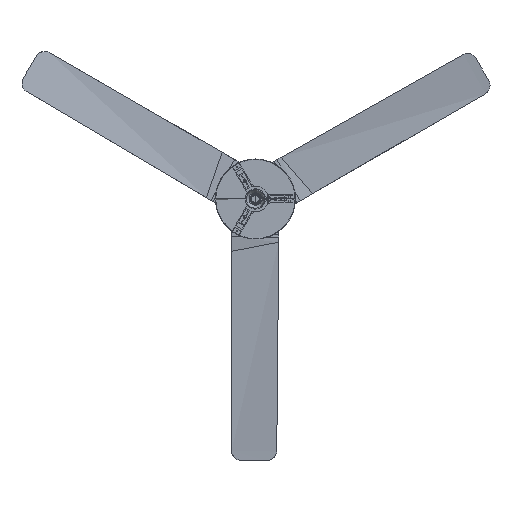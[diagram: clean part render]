
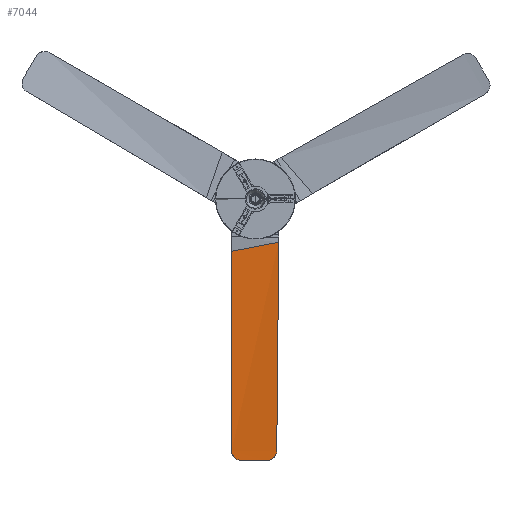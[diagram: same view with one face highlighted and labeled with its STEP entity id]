
A CAD part, top view. The second image highlights one B-rep face of the part: STEP entity #7044.
In plain terms, the highlighted free-form (B-spline) face has degree [3, 1] with [6, 2] control points.
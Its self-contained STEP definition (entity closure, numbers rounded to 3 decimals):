
#7044=ADVANCED_FACE('',(#8184),#25246,.T.);
#8184=FACE_OUTER_BOUND('',#9339,.T.);
#9339=EDGE_LOOP('',(#12304,#12305,#12306,#12307,#12308,#12309));
#12304=ORIENTED_EDGE('',*,*,#17315,.F.);
#12305=ORIENTED_EDGE('',*,*,#17299,.F.);
#12306=ORIENTED_EDGE('',*,*,#17316,.F.);
#12307=ORIENTED_EDGE('',*,*,#17314,.T.);
#12308=ORIENTED_EDGE('',*,*,#17317,.F.);
#12309=ORIENTED_EDGE('',*,*,#17310,.F.);
#17299=EDGE_CURVE('',#23975,#23930,#19780,.T.);
#17310=EDGE_CURVE('',#23931,#23976,#19791,.T.);
#17314=EDGE_CURVE('',#23978,#23977,#19795,.T.);
#17315=EDGE_CURVE('',#23930,#23931,#19796,.T.);
#17316=EDGE_CURVE('',#23978,#23975,#19797,.T.);
#17317=EDGE_CURVE('',#23976,#23977,#19798,.T.);
#19780=B_SPLINE_CURVE_WITH_KNOTS('',3,(#37489,#37490,#37491,#37492,#37493,
#37494,#37495,#37496,#37497,#37498,#37499,#37500,#37501,#37502,#37503,#37504,
#37505,#37506,#37507),.UNSPECIFIED.,.F.,.F.,(4,3,3,3,3,3,4),(0.,74.188,
162.294,248.417,344.474,423.855,496.831),
 .UNSPECIFIED.);
#19791=B_SPLINE_CURVE_WITH_KNOTS('',3,(#37572,#37573,#37574,#37575,#37576,
#37577),.UNSPECIFIED.,.F.,.F.,(4,2,4),(0.,260.467,520.938),
 .UNSPECIFIED.);
#19795=B_SPLINE_CURVE_WITH_KNOTS('',3,(#37588,#37589,#37590,#37591,#37592,
#37593),.UNSPECIFIED.,.F.,.F.,(4,2,4),(-63.426,-31.713,
0.),.UNSPECIFIED.);
#19796=B_SPLINE_CURVE_WITH_KNOTS('',1,(#37594,#37595),.UNSPECIFIED.,.F.,
 .F.,(2,2),(-119.505,0.),.UNSPECIFIED.);
#19797=B_SPLINE_CURVE_WITH_KNOTS('',3,(#37596,#37597,#37598,#37599,#37600,
#37601,#37602,#37603,#37604,#37605),.UNSPECIFIED.,.F.,.F.,(4,2,2,2,4),(-38.429,
-28.878,-19.216,-9.898,0.),.UNSPECIFIED.);
#19798=B_SPLINE_CURVE_WITH_KNOTS('',3,(#37606,#37607,#37608,#37609,#37610,
#37611,#37612,#37613,#37614,#37615),.UNSPECIFIED.,.F.,.F.,(4,2,2,2,4),(-36.898,
-27.437,-18.45,-9.02,0.),.UNSPECIFIED.);
#23930=VERTEX_POINT('',#37176);
#23931=VERTEX_POINT('',#37177);
#23975=VERTEX_POINT('',#37221);
#23976=VERTEX_POINT('',#37222);
#23977=VERTEX_POINT('',#37223);
#23978=VERTEX_POINT('',#37224);
#25246=B_SPLINE_SURFACE_WITH_KNOTS('',3,1,((#37150,#37151),(#37152,#37153),
(#37154,#37155),(#37156,#37157),(#37158,#37159),(#37160,#37161)),
 .UNSPECIFIED.,.F.,.F.,.F.,(4,1,1,4),(2,2),(0.,184.784,
369.567,542.804),(0.,119.831),.UNSPECIFIED.);
#37150=CARTESIAN_POINT('',(9447.256,-4483.504,59.68));
#37151=CARTESIAN_POINT('',(9564.8,-4460.824,65.026));
#37152=CARTESIAN_POINT('',(9447.256,-4542.486,54.949));
#37153=CARTESIAN_POINT('',(9564.8,-4522.401,64.157));
#37154=CARTESIAN_POINT('',(9447.256,-4660.666,47.936));
#37155=CARTESIAN_POINT('',(9564.8,-4645.578,63.211));
#37156=CARTESIAN_POINT('',(9447.256,-4834.551,44.853));
#37157=CARTESIAN_POINT('',(9564.8,-4826.519,64.147));
#37158=CARTESIAN_POINT('',(9447.256,-4949.231,47.435));
#37159=CARTESIAN_POINT('',(9564.8,-4945.849,66.25));
#37160=CARTESIAN_POINT('',(9447.256,-5004.675,49.763));
#37161=CARTESIAN_POINT('',(9564.8,-5003.581,67.616));
#37176=CARTESIAN_POINT('',(9447.576,-4483.442,59.695));
#37177=CARTESIAN_POINT('',(9564.8,-4460.824,65.026));
#37221=CARTESIAN_POINT('',(9447.523,-4979.864,48.835));
#37222=CARTESIAN_POINT('',(9559.861,-4981.702,66.349));
#37223=CARTESIAN_POINT('',(9535.024,-5003.849,63.094));
#37224=CARTESIAN_POINT('',(9472.323,-5003.58,53.538));
#37489=CARTESIAN_POINT('',(9447.523,-4979.864,48.835));
#37490=CARTESIAN_POINT('',(9447.467,-4955.143,47.932));
#37491=CARTESIAN_POINT('',(9447.42,-4930.425,47.245));
#37492=CARTESIAN_POINT('',(9447.382,-4905.707,46.774));
#37493=CARTESIAN_POINT('',(9447.337,-4876.342,46.214));
#37494=CARTESIAN_POINT('',(9447.304,-4846.977,45.959));
#37495=CARTESIAN_POINT('',(9447.283,-4817.607,46.008));
#37496=CARTESIAN_POINT('',(9447.262,-4788.909,46.056));
#37497=CARTESIAN_POINT('',(9447.254,-4760.206,46.395));
#37498=CARTESIAN_POINT('',(9447.257,-4731.493,47.025));
#37499=CARTESIAN_POINT('',(9447.26,-4699.468,47.728));
#37500=CARTESIAN_POINT('',(9447.278,-4667.47,48.793));
#37501=CARTESIAN_POINT('',(9447.311,-4635.493,50.217));
#37502=CARTESIAN_POINT('',(9447.338,-4609.058,51.394));
#37503=CARTESIAN_POINT('',(9447.375,-4582.638,52.816));
#37504=CARTESIAN_POINT('',(9447.422,-4556.229,54.483));
#37505=CARTESIAN_POINT('',(9447.465,-4531.958,56.014));
#37506=CARTESIAN_POINT('',(9447.516,-4507.697,57.752));
#37507=CARTESIAN_POINT('',(9447.576,-4483.442,59.695));
#37572=CARTESIAN_POINT('',(9564.8,-4460.824,65.026));
#37573=CARTESIAN_POINT('',(9563.977,-4547.627,63.766));
#37574=CARTESIAN_POINT('',(9563.153,-4634.452,63.174));
#37575=CARTESIAN_POINT('',(9561.507,-4808.089,63.543));
#37576=CARTESIAN_POINT('',(9560.684,-4894.905,64.504));
#37577=CARTESIAN_POINT('',(9559.861,-4981.702,66.349));
#37588=CARTESIAN_POINT('',(9472.323,-5003.58,53.538));
#37589=CARTESIAN_POINT('',(9482.773,-5003.625,55.132));
#37590=CARTESIAN_POINT('',(9493.223,-5003.67,56.725));
#37591=CARTESIAN_POINT('',(9514.123,-5003.759,59.91));
#37592=CARTESIAN_POINT('',(9524.574,-5003.804,61.502));
#37593=CARTESIAN_POINT('',(9535.024,-5003.849,63.094));
#37594=CARTESIAN_POINT('',(9447.576,-4483.442,59.695));
#37595=CARTESIAN_POINT('',(9564.8,-4460.824,65.026));
#37596=CARTESIAN_POINT('',(9472.323,-5003.58,53.538));
#37597=CARTESIAN_POINT('',(9469.185,-5003.599,53.061));
#37598=CARTESIAN_POINT('',(9466.076,-5003.014,52.565));
#37599=CARTESIAN_POINT('',(9460.212,-5000.687,51.579));
#37600=CARTESIAN_POINT('',(9457.517,-4998.954,51.099));
#37601=CARTESIAN_POINT('',(9453.005,-4994.632,50.238));
#37602=CARTESIAN_POINT('',(9451.198,-4992.112,49.862));
#37603=CARTESIAN_POINT('',(9448.499,-4986.359,49.226));
#37604=CARTESIAN_POINT('',(9447.695,-4983.146,48.98));
#37605=CARTESIAN_POINT('',(9447.523,-4979.864,48.835));
#37606=CARTESIAN_POINT('',(9559.861,-4981.702,66.349));
#37607=CARTESIAN_POINT('',(9559.512,-4984.827,66.366));
#37608=CARTESIAN_POINT('',(9558.583,-4987.861,66.293));
#37609=CARTESIAN_POINT('',(9555.731,-4993.281,65.983));
#37610=CARTESIAN_POINT('',(9553.885,-4995.649,65.757));
#37611=CARTESIAN_POINT('',(9549.341,-4999.708,65.164));
#37612=CARTESIAN_POINT('',(9546.647,-5001.323,64.795));
#37613=CARTESIAN_POINT('',(9540.937,-5003.404,63.98));
#37614=CARTESIAN_POINT('',(9537.988,-5003.9,63.546));
#37615=CARTESIAN_POINT('',(9535.024,-5003.849,63.094));
